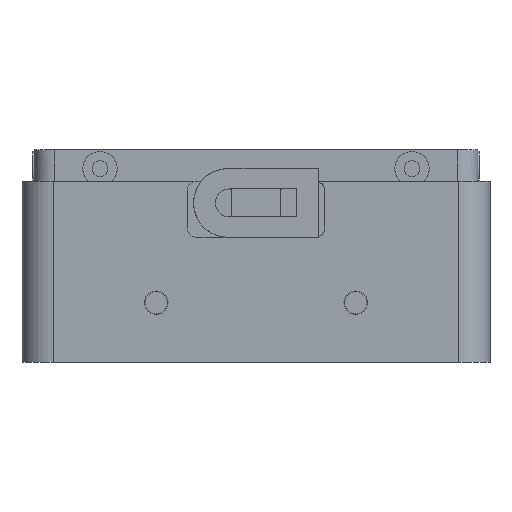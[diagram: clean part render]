
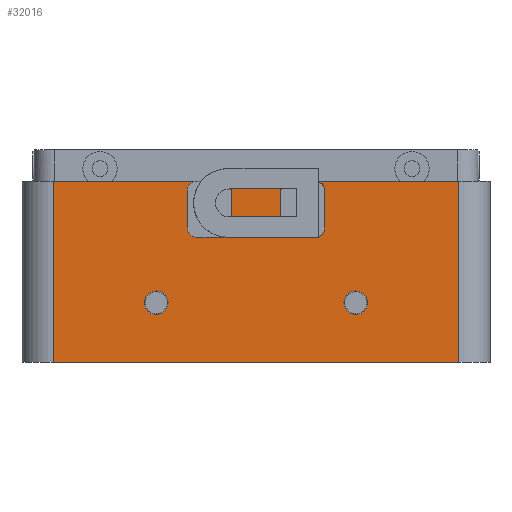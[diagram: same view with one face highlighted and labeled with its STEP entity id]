
A CAD part, left-side view. The second image highlights one B-rep face of the part: STEP entity #32016.
In plain terms, the highlighted planar face has unit normal (-1, 0, 0).
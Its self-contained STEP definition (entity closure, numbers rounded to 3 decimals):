
#29792=CARTESIAN_POINT('Vertex',(-94.,35.8,19.)) ;
#29795=CARTESIAN_POINT('Axis2P3D Location',(-94.,32.,19.)) ;
#29799=CARTESIAN_POINT('Vertex',(-94.,28.2,19.)) ;
#29814=CARTESIAN_POINT('Axis2P3D Location',(-94.,32.,19.)) ;
#29830=CARTESIAN_POINT('Vertex',(-94.,-28.2,19.)) ;
#29833=CARTESIAN_POINT('Axis2P3D Location',(-94.,-32.,19.)) ;
#29837=CARTESIAN_POINT('Vertex',(-94.,-35.8,19.)) ;
#29852=CARTESIAN_POINT('Axis2P3D Location',(-94.,-32.,19.)) ;
#29889=CARTESIAN_POINT('Vertex',(-94.,-65.,0.)) ;
#29892=CARTESIAN_POINT('Line Origine',(-94.,0.,0.)) ;
#29896=CARTESIAN_POINT('Vertex',(-94.,65.,0.)) ;
#30046=CARTESIAN_POINT('Vertex',(-94.,22.,55.)) ;
#30049=CARTESIAN_POINT('Line Origine',(-94.,22.,49.)) ;
#30053=CARTESIAN_POINT('Vertex',(-94.,22.,43.)) ;
#30075=CARTESIAN_POINT('Axis2P3D Location',(-94.,19.,43.)) ;
#30079=CARTESIAN_POINT('Vertex',(-94.,19.,40.)) ;
#30101=CARTESIAN_POINT('Line Origine',(-94.,15.,40.)) ;
#30105=CARTESIAN_POINT('Vertex',(-94.,11.,40.)) ;
#30134=CARTESIAN_POINT('Axis2P3D Location',(-94.,11.,43.)) ;
#30138=CARTESIAN_POINT('Vertex',(-94.,8.,43.)) ;
#30168=CARTESIAN_POINT('Line Origine',(-94.,8.,49.)) ;
#30172=CARTESIAN_POINT('Vertex',(-94.,8.,55.)) ;
#30281=CARTESIAN_POINT('Vertex',(-94.,-8.,55.)) ;
#30284=CARTESIAN_POINT('Line Origine',(-94.,-8.,49.)) ;
#30288=CARTESIAN_POINT('Vertex',(-94.,-8.,43.)) ;
#31472=CARTESIAN_POINT('Vertex',(-94.,19.,58.)) ;
#31475=CARTESIAN_POINT('Axis2P3D Location',(-94.,19.,55.)) ;
#31492=CARTESIAN_POINT('Line Origine',(-94.,65.,29.)) ;
#31496=CARTESIAN_POINT('Vertex',(-94.,65.,58.)) ;
#31805=CARTESIAN_POINT('Line Origine',(-94.,-65.,29.)) ;
#31809=CARTESIAN_POINT('Vertex',(-94.,-65.,58.)) ;
#31917=CARTESIAN_POINT('Axis2P3D Location',(-94.,65.,0.)) ;
#31922=CARTESIAN_POINT('Line Origine',(-94.,0.,58.)) ;
#31926=CARTESIAN_POINT('Vertex',(-94.,11.,58.)) ;
#31928=CARTESIAN_POINT('Vertex',(-94.,-11.,58.)) ;
#31931=CARTESIAN_POINT('Axis2P3D Location',(-94.,11.,55.)) ;
#31936=CARTESIAN_POINT('Line Origine',(-94.,42.,58.)) ;
#31941=CARTESIAN_POINT('Line Origine',(-94.,-42.,58.)) ;
#31945=CARTESIAN_POINT('Vertex',(-94.,-19.,58.)) ;
#31948=CARTESIAN_POINT('Axis2P3D Location',(-94.,-19.,55.)) ;
#31952=CARTESIAN_POINT('Vertex',(-94.,-22.,55.)) ;
#31955=CARTESIAN_POINT('Line Origine',(-94.,-22.,49.)) ;
#31959=CARTESIAN_POINT('Vertex',(-94.,-22.,43.)) ;
#31962=CARTESIAN_POINT('Axis2P3D Location',(-94.,-19.,43.)) ;
#31966=CARTESIAN_POINT('Vertex',(-94.,-19.,40.)) ;
#31969=CARTESIAN_POINT('Line Origine',(-94.,-15.,40.)) ;
#31973=CARTESIAN_POINT('Vertex',(-94.,-11.,40.)) ;
#31976=CARTESIAN_POINT('Axis2P3D Location',(-94.,-11.,43.)) ;
#31981=CARTESIAN_POINT('Axis2P3D Location',(-94.,-11.,55.)) ;
#29894=VECTOR('Line Direction',#29893,1.) ;
#30051=VECTOR('Line Direction',#30050,1.) ;
#30103=VECTOR('Line Direction',#30102,1.) ;
#30170=VECTOR('Line Direction',#30169,1.) ;
#30286=VECTOR('Line Direction',#30285,1.) ;
#31494=VECTOR('Line Direction',#31493,1.) ;
#31807=VECTOR('Line Direction',#31806,1.) ;
#31924=VECTOR('Line Direction',#31923,1.) ;
#31938=VECTOR('Line Direction',#31937,1.) ;
#31943=VECTOR('Line Direction',#31942,1.) ;
#31957=VECTOR('Line Direction',#31956,1.) ;
#31971=VECTOR('Line Direction',#31970,1.) ;
#29796=DIRECTION('Axis2P3D Direction',(1.,0.,0.)) ;
#29815=DIRECTION('Axis2P3D Direction',(1.,0.,0.)) ;
#29834=DIRECTION('Axis2P3D Direction',(1.,0.,0.)) ;
#29853=DIRECTION('Axis2P3D Direction',(1.,0.,0.)) ;
#29893=DIRECTION('Vector Direction',(0.,-1.,0.)) ;
#30050=DIRECTION('Vector Direction',(0.,0.,1.)) ;
#30076=DIRECTION('Axis2P3D Direction',(1.,0.,0.)) ;
#30102=DIRECTION('Vector Direction',(0.,1.,0.)) ;
#30135=DIRECTION('Axis2P3D Direction',(1.,0.,0.)) ;
#30169=DIRECTION('Vector Direction',(0.,0.,-1.)) ;
#30285=DIRECTION('Vector Direction',(0.,0.,1.)) ;
#31476=DIRECTION('Axis2P3D Direction',(1.,0.,0.)) ;
#31493=DIRECTION('Vector Direction',(0.,0.,1.)) ;
#31806=DIRECTION('Vector Direction',(0.,0.,1.)) ;
#31918=DIRECTION('Axis2P3D Direction',(-1.,0.,0.)) ;
#31919=DIRECTION('Axis2P3D XDirection',(0.,-1.,0.)) ;
#31923=DIRECTION('Vector Direction',(0.,-1.,0.)) ;
#31932=DIRECTION('Axis2P3D Direction',(-1.,0.,0.)) ;
#31937=DIRECTION('Vector Direction',(0.,-1.,0.)) ;
#31942=DIRECTION('Vector Direction',(0.,-1.,0.)) ;
#31949=DIRECTION('Axis2P3D Direction',(-1.,0.,0.)) ;
#31956=DIRECTION('Vector Direction',(0.,0.,-1.)) ;
#31963=DIRECTION('Axis2P3D Direction',(-1.,0.,0.)) ;
#31970=DIRECTION('Vector Direction',(0.,1.,0.)) ;
#31977=DIRECTION('Axis2P3D Direction',(-1.,0.,0.)) ;
#31982=DIRECTION('Axis2P3D Direction',(-1.,0.,0.)) ;
#29797=AXIS2_PLACEMENT_3D('Circle Axis2P3D',#29795,#29796,$) ;
#29816=AXIS2_PLACEMENT_3D('Circle Axis2P3D',#29814,#29815,$) ;
#29835=AXIS2_PLACEMENT_3D('Circle Axis2P3D',#29833,#29834,$) ;
#29854=AXIS2_PLACEMENT_3D('Circle Axis2P3D',#29852,#29853,$) ;
#30077=AXIS2_PLACEMENT_3D('Circle Axis2P3D',#30075,#30076,$) ;
#30136=AXIS2_PLACEMENT_3D('Circle Axis2P3D',#30134,#30135,$) ;
#31477=AXIS2_PLACEMENT_3D('Circle Axis2P3D',#31475,#31476,$) ;
#31920=AXIS2_PLACEMENT_3D('Plane Axis2P3D',#31917,#31918,#31919) ;
#31933=AXIS2_PLACEMENT_3D('Circle Axis2P3D',#31931,#31932,$) ;
#31950=AXIS2_PLACEMENT_3D('Circle Axis2P3D',#31948,#31949,$) ;
#31964=AXIS2_PLACEMENT_3D('Circle Axis2P3D',#31962,#31963,$) ;
#31978=AXIS2_PLACEMENT_3D('Circle Axis2P3D',#31976,#31977,$) ;
#31983=AXIS2_PLACEMENT_3D('Circle Axis2P3D',#31981,#31982,$) ;
#29895=LINE('Line',#29892,#29894) ;
#30052=LINE('Line',#30049,#30051) ;
#30104=LINE('Line',#30101,#30103) ;
#30171=LINE('Line',#30168,#30170) ;
#30287=LINE('Line',#30284,#30286) ;
#31495=LINE('Line',#31492,#31494) ;
#31808=LINE('Line',#31805,#31807) ;
#31925=LINE('Line',#31922,#31924) ;
#31939=LINE('Line',#31936,#31938) ;
#31944=LINE('Line',#31941,#31943) ;
#31958=LINE('Line',#31955,#31957) ;
#31972=LINE('Line',#31969,#31971) ;
#29798=CIRCLE('generated circle',#29797,3.8) ;
#29817=CIRCLE('generated circle',#29816,3.8) ;
#29836=CIRCLE('generated circle',#29835,3.8) ;
#29855=CIRCLE('generated circle',#29854,3.8) ;
#30078=CIRCLE('generated circle',#30077,3.) ;
#30137=CIRCLE('generated circle',#30136,3.) ;
#31478=CIRCLE('generated circle',#31477,3.) ;
#31934=CIRCLE('generated circle',#31933,3.) ;
#31951=CIRCLE('generated circle',#31950,3.) ;
#31965=CIRCLE('generated circle',#31964,3.) ;
#31979=CIRCLE('generated circle',#31978,3.) ;
#31984=CIRCLE('generated circle',#31983,3.) ;
#31921=PLANE('',#31920) ;
#32011=FACE_BOUND('',#32008,.T.) ;
#32015=FACE_BOUND('',#32012,.T.) ;
#29801=EDGE_CURVE('',#29800,#29793,#29798,.T.) ;
#29818=EDGE_CURVE('',#29793,#29800,#29817,.T.) ;
#29839=EDGE_CURVE('',#29838,#29831,#29836,.T.) ;
#29856=EDGE_CURVE('',#29831,#29838,#29855,.T.) ;
#29898=EDGE_CURVE('',#29897,#29890,#29895,.T.) ;
#30055=EDGE_CURVE('',#30054,#30047,#30052,.T.) ;
#30081=EDGE_CURVE('',#30080,#30054,#30078,.T.) ;
#30107=EDGE_CURVE('',#30106,#30080,#30104,.T.) ;
#30140=EDGE_CURVE('',#30139,#30106,#30137,.T.) ;
#30174=EDGE_CURVE('',#30173,#30139,#30171,.T.) ;
#30290=EDGE_CURVE('',#30289,#30282,#30287,.T.) ;
#31479=EDGE_CURVE('',#30047,#31473,#31478,.T.) ;
#31498=EDGE_CURVE('',#29897,#31497,#31495,.T.) ;
#31811=EDGE_CURVE('',#29890,#31810,#31808,.T.) ;
#31930=EDGE_CURVE('',#31927,#31929,#31925,.T.) ;
#31935=EDGE_CURVE('',#31927,#30173,#31934,.F.) ;
#31940=EDGE_CURVE('',#31497,#31473,#31939,.T.) ;
#31947=EDGE_CURVE('',#31946,#31810,#31944,.T.) ;
#31954=EDGE_CURVE('',#31946,#31953,#31951,.F.) ;
#31961=EDGE_CURVE('',#31953,#31960,#31958,.T.) ;
#31968=EDGE_CURVE('',#31960,#31967,#31965,.F.) ;
#31975=EDGE_CURVE('',#31967,#31974,#31972,.T.) ;
#31980=EDGE_CURVE('',#31974,#30289,#31979,.F.) ;
#31985=EDGE_CURVE('',#30282,#31929,#31984,.F.) ;
#31987=ORIENTED_EDGE('',*,*,#31930,.F.) ;
#31988=ORIENTED_EDGE('',*,*,#31935,.T.) ;
#31989=ORIENTED_EDGE('',*,*,#30174,.T.) ;
#31990=ORIENTED_EDGE('',*,*,#30140,.T.) ;
#31991=ORIENTED_EDGE('',*,*,#30107,.T.) ;
#31992=ORIENTED_EDGE('',*,*,#30081,.T.) ;
#31993=ORIENTED_EDGE('',*,*,#30055,.T.) ;
#31994=ORIENTED_EDGE('',*,*,#31479,.T.) ;
#31995=ORIENTED_EDGE('',*,*,#31940,.F.) ;
#31996=ORIENTED_EDGE('',*,*,#31498,.F.) ;
#31997=ORIENTED_EDGE('',*,*,#29898,.T.) ;
#31998=ORIENTED_EDGE('',*,*,#31811,.T.) ;
#31999=ORIENTED_EDGE('',*,*,#31947,.F.) ;
#32000=ORIENTED_EDGE('',*,*,#31954,.T.) ;
#32001=ORIENTED_EDGE('',*,*,#31961,.T.) ;
#32002=ORIENTED_EDGE('',*,*,#31968,.T.) ;
#32003=ORIENTED_EDGE('',*,*,#31975,.T.) ;
#32004=ORIENTED_EDGE('',*,*,#31980,.T.) ;
#32005=ORIENTED_EDGE('',*,*,#30290,.T.) ;
#32006=ORIENTED_EDGE('',*,*,#31985,.T.) ;
#32009=ORIENTED_EDGE('',*,*,#29856,.T.) ;
#32010=ORIENTED_EDGE('',*,*,#29839,.T.) ;
#32013=ORIENTED_EDGE('',*,*,#29818,.T.) ;
#32014=ORIENTED_EDGE('',*,*,#29801,.T.) ;
#31986=EDGE_LOOP('',(#31987,#31988,#31989,#31990,#31991,#31992,#31993,#31994,#31995,#31996,#31997,#31998,#31999,#32000,#32001,#32002,#32003,#32004,#32005,#32006)) ;
#32008=EDGE_LOOP('',(#32009,#32010)) ;
#32012=EDGE_LOOP('',(#32013,#32014)) ;
#29793=VERTEX_POINT('',#29792) ;
#29800=VERTEX_POINT('',#29799) ;
#29831=VERTEX_POINT('',#29830) ;
#29838=VERTEX_POINT('',#29837) ;
#29890=VERTEX_POINT('',#29889) ;
#29897=VERTEX_POINT('',#29896) ;
#30047=VERTEX_POINT('',#30046) ;
#30054=VERTEX_POINT('',#30053) ;
#30080=VERTEX_POINT('',#30079) ;
#30106=VERTEX_POINT('',#30105) ;
#30139=VERTEX_POINT('',#30138) ;
#30173=VERTEX_POINT('',#30172) ;
#30282=VERTEX_POINT('',#30281) ;
#30289=VERTEX_POINT('',#30288) ;
#31473=VERTEX_POINT('',#31472) ;
#31497=VERTEX_POINT('',#31496) ;
#31810=VERTEX_POINT('',#31809) ;
#31927=VERTEX_POINT('',#31926) ;
#31929=VERTEX_POINT('',#31928) ;
#31946=VERTEX_POINT('',#31945) ;
#31953=VERTEX_POINT('',#31952) ;
#31960=VERTEX_POINT('',#31959) ;
#31967=VERTEX_POINT('',#31966) ;
#31974=VERTEX_POINT('',#31973) ;
#32016=ADVANCED_FACE('MAIN_HOUSING',(#32007,#32011,#32015),#31921,.T.) ;
#32007=FACE_OUTER_BOUND('',#31986,.T.) ;
